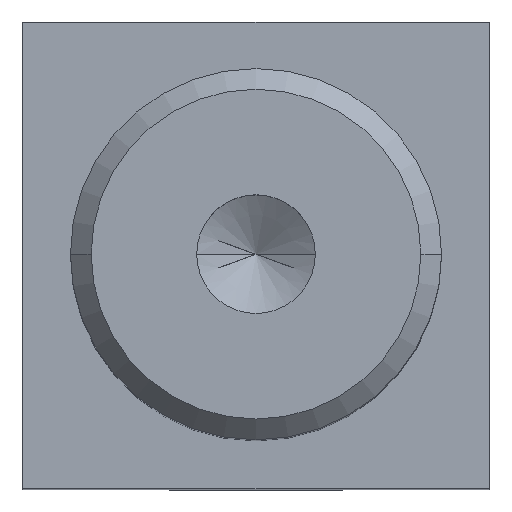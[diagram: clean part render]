
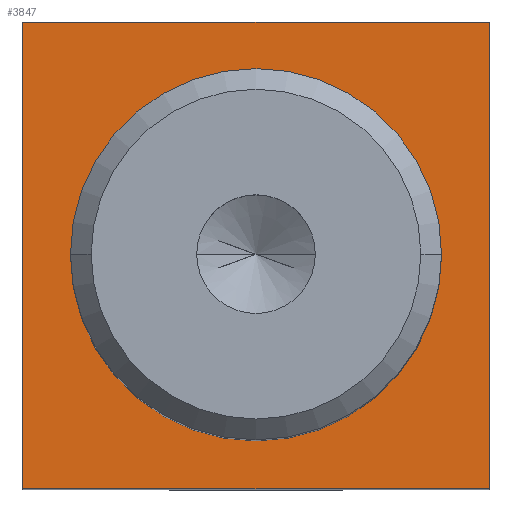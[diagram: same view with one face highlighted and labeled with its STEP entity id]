
A CAD part, top view. The second image highlights one B-rep face of the part: STEP entity #3847.
In plain terms, the highlighted planar face has unit normal (0, 0, 1).
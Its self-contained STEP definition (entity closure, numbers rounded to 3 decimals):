
#741 = VERTEX_POINT ( 'NONE', #2378 ) ;
#747 = EDGE_CURVE ( 'NONE', #931, #741, #2373, .T. ) ;
#756 = VERTEX_POINT ( 'NONE', #2403 ) ;
#931 = VERTEX_POINT ( 'NONE', #2685 ) ;
#935 = EDGE_CURVE ( 'NONE', #939, #931, #2679, .T. ) ;
#939 = VERTEX_POINT ( 'NONE', #2669 ) ;
#1189 = EDGE_CURVE ( 'NONE', #1190, #1191, #3055, .T. ) ;
#1190 = VERTEX_POINT ( 'NONE', #3050 ) ;
#1191 = VERTEX_POINT ( 'NONE', #3049 ) ;
#2370 = DIRECTION ( 'NONE',  ( -1., 0., 0. ) ) ;
#2371 = VECTOR ( 'NONE', #2370, 1000. ) ;
#2372 = CARTESIAN_POINT ( 'NONE',  ( 0., 22.5, 74.5 ) ) ;
#2373 = LINE ( 'NONE', #2372, #2371 ) ;
#2378 = CARTESIAN_POINT ( 'NONE',  ( -22.5, 22.5, 74.5 ) ) ;
#2403 = CARTESIAN_POINT ( 'NONE',  ( -22.5, -22.5, 74.5 ) ) ;
#2669 = CARTESIAN_POINT ( 'NONE',  ( 22.5, -22.5, 74.5 ) ) ;
#2676 = DIRECTION ( 'NONE',  ( 0., 1., 0. ) ) ;
#2677 = VECTOR ( 'NONE', #2676, 1000. ) ;
#2678 = CARTESIAN_POINT ( 'NONE',  ( 22.5, 0., 74.5 ) ) ;
#2679 = LINE ( 'NONE', #2678, #2677 ) ;
#2685 = CARTESIAN_POINT ( 'NONE',  ( 22.5, 22.5, 74.5 ) ) ;
#3049 = CARTESIAN_POINT ( 'NONE',  ( -17.9, 0., 74.5 ) ) ;
#3050 = CARTESIAN_POINT ( 'NONE',  ( 17.9, 0., 74.5 ) ) ;
#3051 = DIRECTION ( 'NONE',  ( 1., 0., 0. ) ) ;
#3052 = DIRECTION ( 'NONE',  ( 0., 0., 1. ) ) ;
#3053 = CARTESIAN_POINT ( 'NONE',  ( 0., 0., 74.5 ) ) ;
#3054 = AXIS2_PLACEMENT_3D ( 'NONE', #3053, #3052, #3051 ) ;
#3055 = CIRCLE ( 'NONE', #3054, 17.9 ) ;
#3832 = EDGE_CURVE ( 'NONE', #1191, #1190, #4707, .T. ) ;
#3847 = ADVANCED_FACE ( 'NONE', ( #4739, #4738 ), #4737, .T. ) ;
#3848 = EDGE_LOOP ( 'NONE', ( #3850, #3851, #3852, #3853 ) ) ;
#3850 = ORIENTED_EDGE ( 'NONE', *, *, #3870, .T. ) ;
#3851 = ORIENTED_EDGE ( 'NONE', *, *, #3858, .T. ) ;
#3852 = ORIENTED_EDGE ( 'NONE', *, *, #935, .T. ) ;
#3853 = ORIENTED_EDGE ( 'NONE', *, *, #747, .T. ) ;
#3854 = EDGE_LOOP ( 'NONE', ( #3855, #3916 ) ) ;
#3855 = ORIENTED_EDGE ( 'NONE', *, *, #1189, .F. ) ;
#3858 = EDGE_CURVE ( 'NONE', #756, #939, #4731, .T. ) ;
#3870 = EDGE_CURVE ( 'NONE', #741, #756, #4722, .T. ) ;
#3916 = ORIENTED_EDGE ( 'NONE', *, *, #3832, .F. ) ;
#4699 = DIRECTION ( 'NONE',  ( 1., 0., 0. ) ) ;
#4700 = DIRECTION ( 'NONE',  ( 0., 0., 1. ) ) ;
#4701 = CARTESIAN_POINT ( 'NONE',  ( 0., 0., 74.5 ) ) ;
#4702 = AXIS2_PLACEMENT_3D ( 'NONE', #4701, #4700, #4699 ) ;
#4707 = CIRCLE ( 'NONE', #4702, 17.9 ) ;
#4716 = DIRECTION ( 'NONE',  ( 0., -1., 0. ) ) ;
#4717 = VECTOR ( 'NONE', #4716, 1000. ) ;
#4718 = CARTESIAN_POINT ( 'NONE',  ( -22.5, 0., 74.5 ) ) ;
#4722 = LINE ( 'NONE', #4718, #4717 ) ;
#4728 = DIRECTION ( 'NONE',  ( 1., 0., 0. ) ) ;
#4729 = VECTOR ( 'NONE', #4728, 1000. ) ;
#4730 = CARTESIAN_POINT ( 'NONE',  ( 0., -22.5, 74.5 ) ) ;
#4731 = LINE ( 'NONE', #4730, #4729 ) ;
#4732 = DIRECTION ( 'NONE',  ( 1., 0., 0. ) ) ;
#4733 = DIRECTION ( 'NONE',  ( 0., 0., 1. ) ) ;
#4734 = AXIS2_PLACEMENT_3D ( 'NONE', #4736, #4733, #4732 ) ;
#4736 = CARTESIAN_POINT ( 'NONE',  ( 0., 0., 74.5 ) ) ;
#4737 = PLANE ( 'NONE',  #4734 ) ;
#4738 = FACE_BOUND ( 'NONE', #3854, .T. ) ;
#4739 = FACE_OUTER_BOUND ( 'NONE', #3848, .T. ) ;
